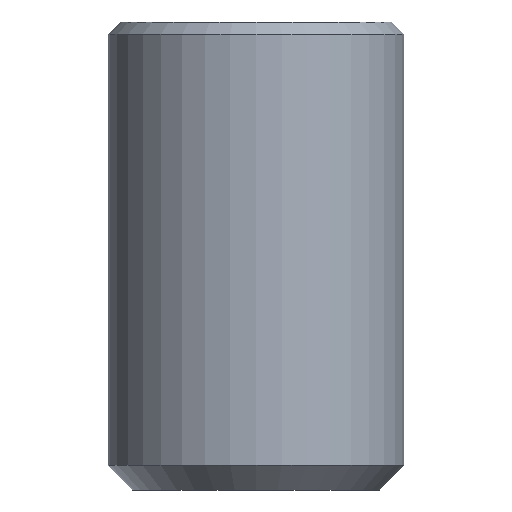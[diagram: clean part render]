
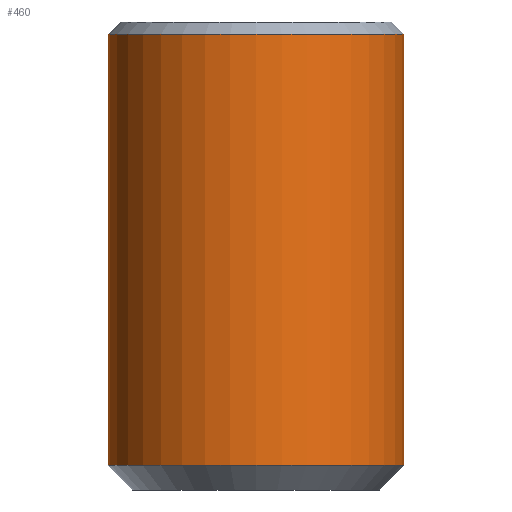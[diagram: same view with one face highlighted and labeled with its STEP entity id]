
A CAD part, front view. The second image highlights one B-rep face of the part: STEP entity #460.
In plain terms, the highlighted cylindrical face has radius 6 mm (diameter 12 mm), a partial arc.
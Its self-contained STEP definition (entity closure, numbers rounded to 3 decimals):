
#51 = DIRECTION ( 'NONE',  ( 0., 0., 1. ) ) ;
#67 = CARTESIAN_POINT ( 'NONE',  ( 0., 0., -0.5 ) ) ;
#68 = ORIENTED_EDGE ( 'NONE', *, *, #124, .T. ) ;
#70 = AXIS2_PLACEMENT_3D ( 'NONE', #67, #197, #503 ) ;
#92 = DIRECTION ( 'NONE',  ( 0., 0., 1. ) ) ;
#113 = VERTEX_POINT ( 'NONE', #134 ) ;
#118 = CYLINDRICAL_SURFACE ( 'NONE', #405, 6. ) ;
#124 = EDGE_CURVE ( 'NONE', #244, #113, #338, .T. ) ;
#126 = AXIS2_PLACEMENT_3D ( 'NONE', #180, #92, #492 ) ;
#132 = LINE ( 'NONE', #395, #466 ) ;
#134 = CARTESIAN_POINT ( 'NONE',  ( 6., 0., -18. ) ) ;
#158 = DIRECTION ( 'NONE',  ( 0., 0., 1. ) ) ;
#180 = CARTESIAN_POINT ( 'NONE',  ( 0., 0., -18. ) ) ;
#197 = DIRECTION ( 'NONE',  ( 0., 0., 1. ) ) ;
#211 = EDGE_CURVE ( 'NONE', #113, #350, #132, .T. ) ;
#217 = EDGE_CURVE ( 'NONE', #378, #350, #512, .T. ) ;
#244 = VERTEX_POINT ( 'NONE', #320 ) ;
#246 = ORIENTED_EDGE ( 'NONE', *, *, #505, .F. ) ;
#247 = CARTESIAN_POINT ( 'NONE',  ( 6., 0., -0.5 ) ) ;
#258 = ORIENTED_EDGE ( 'NONE', *, *, #211, .T. ) ;
#296 = LINE ( 'NONE', #302, #483 ) ;
#302 = CARTESIAN_POINT ( 'NONE',  ( -6., 0., 0. ) ) ;
#320 = CARTESIAN_POINT ( 'NONE',  ( -6., 0., -18. ) ) ;
#336 = DIRECTION ( 'NONE',  ( 1., 0., 0. ) ) ;
#338 = CIRCLE ( 'NONE', #126, 6. ) ;
#350 = VERTEX_POINT ( 'NONE', #247 ) ;
#377 = CARTESIAN_POINT ( 'NONE',  ( 0., 0., 0. ) ) ;
#378 = VERTEX_POINT ( 'NONE', #426 ) ;
#379 = FACE_OUTER_BOUND ( 'NONE', #551, .T. ) ;
#395 = CARTESIAN_POINT ( 'NONE',  ( 6., 0., 0. ) ) ;
#405 = AXIS2_PLACEMENT_3D ( 'NONE', #377, #158, #336 ) ;
#418 = ORIENTED_EDGE ( 'NONE', *, *, #217, .F. ) ;
#426 = CARTESIAN_POINT ( 'NONE',  ( -6., 0., -0.5 ) ) ;
#460 = ADVANCED_FACE ( 'NONE', ( #379 ), #118, .T. ) ;
#466 = VECTOR ( 'NONE', #469, 1000. ) ;
#469 = DIRECTION ( 'NONE',  ( 0., 0., 1. ) ) ;
#483 = VECTOR ( 'NONE', #51, 1000. ) ;
#492 = DIRECTION ( 'NONE',  ( 1., 0., 0. ) ) ;
#503 = DIRECTION ( 'NONE',  ( 1., 0., 0. ) ) ;
#505 = EDGE_CURVE ( 'NONE', #244, #378, #296, .T. ) ;
#512 = CIRCLE ( 'NONE', #70, 6. ) ;
#551 = EDGE_LOOP ( 'NONE', ( #246, #68, #258, #418 ) ) ;
